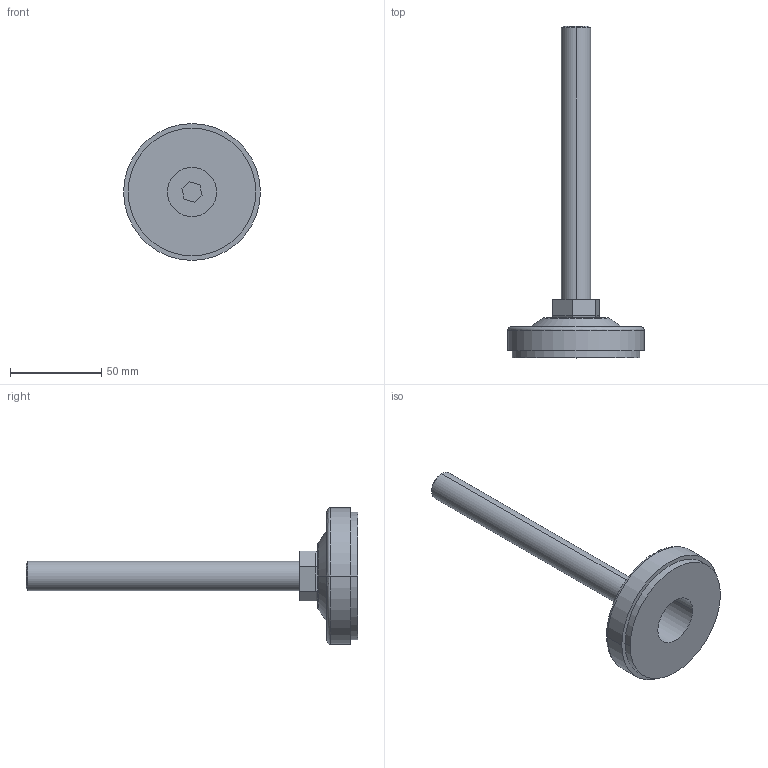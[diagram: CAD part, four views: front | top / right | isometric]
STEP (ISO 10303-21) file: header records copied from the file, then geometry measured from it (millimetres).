
FILE_DESCRIPTION (( 'STEP AP203' ), '1' );
FILE_NAME ('DY-D7516150.STEP', '2022-03-08T03:19:57', ( '' ), ( '' ), 'SwSTEP 2.0', 'SolidWorks 2017', '' );
FILE_SCHEMA (( 'CONFIG_CONTROL_DESIGN' ));
Length unit declared in the file: millimetre
Products named in the file (4): 六角螺絲 M6-10L; 六角螺絲 M16-150L; DY-D7516150; B80 base
Assembly tree (3 placements, depth 2):
  DY-D7516150
    B80 base
    六角螺絲 M6-10L
    六角螺絲 M16-150L
Bounding box: 75 x 182 x 75 mm (x, y, z)
Volume: 104149.9 mm3; surface area: 24415.4 mm2
Topology: 3 solids, 3 shells, 52 faces, 108 edges, 68 vertices
Faces by surface type: plane 24, cylinder 20, bspline 4, cone 4
Entity records: 2034 total; most frequent: CARTESIAN_POINT 520, DIRECTION 244, ORIENTED_EDGE 216, EDGE_CURVE 108, AXIS2_PLACEMENT_3D 92, VERTEX_POINT 68, LINE 60, EDGE_LOOP 60
